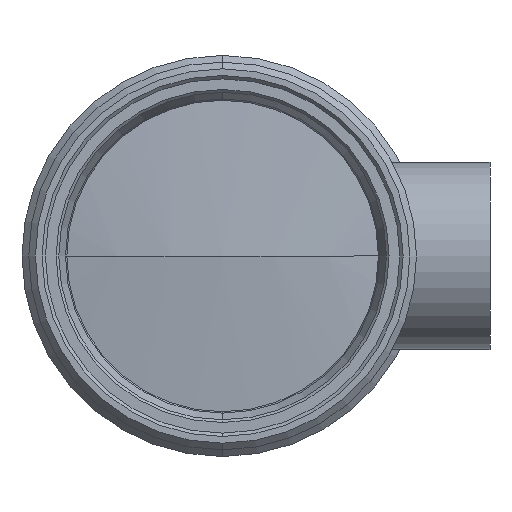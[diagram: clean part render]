
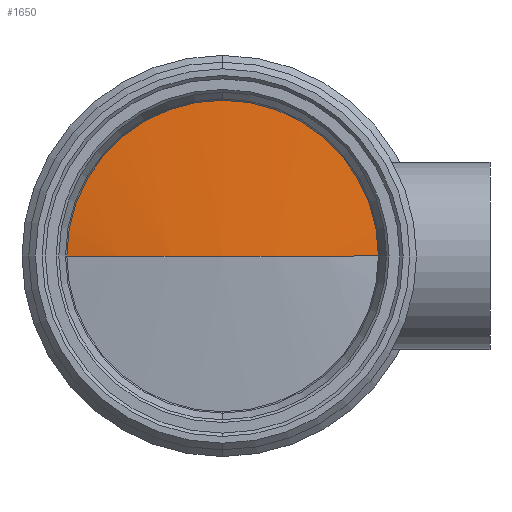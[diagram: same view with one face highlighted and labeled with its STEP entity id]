
A CAD part, left-side view. The second image highlights one B-rep face of the part: STEP entity #1650.
In plain terms, the highlighted spherical face has radius 75.5 mm.
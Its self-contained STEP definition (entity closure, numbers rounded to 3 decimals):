
#40 = ORIENTED_EDGE ( 'NONE', *, *, #327, .F. ) ;
#89 = CARTESIAN_POINT ( 'NONE',  ( 5.177, 0., 11.75 ) ) ;
#102 = EDGE_CURVE ( 'NONE', #3739, #3516, #3099, .T. ) ;
#130 = CARTESIAN_POINT ( 'NONE',  ( 5.177, 0., 0. ) ) ;
#327 = EDGE_CURVE ( 'NONE', #1634, #3631, #2429, .T. ) ;
#329 = CARTESIAN_POINT ( 'NONE',  ( 5.177, 0., 0. ) ) ;
#444 = DIRECTION ( 'NONE',  ( 0., 0., -1. ) ) ;
#448 = ORIENTED_EDGE ( 'NONE', *, *, #102, .T. ) ;
#737 = CARTESIAN_POINT ( 'NONE',  ( 4.257, 0., 0. ) ) ;
#907 = CIRCLE ( 'NONE', #2272, 75.5 ) ;
#929 = CARTESIAN_POINT ( 'NONE',  ( 5.177, 11.75, 0. ) ) ;
#944 = CARTESIAN_POINT ( 'NONE',  ( 79.757, 0., 0. ) ) ;
#1108 = ORIENTED_EDGE ( 'NONE', *, *, #1378, .F. ) ;
#1217 = CARTESIAN_POINT ( 'NONE',  ( 79.757, 0., 0. ) ) ;
#1339 = CIRCLE ( 'NONE', #1976, 11.75 ) ;
#1378 = EDGE_CURVE ( 'NONE', #3631, #3516, #1339, .T. ) ;
#1389 = FACE_OUTER_BOUND ( 'NONE', #1802, .T. ) ;
#1445 = DIRECTION ( 'NONE',  ( 0., -1., 0. ) ) ;
#1532 = DIRECTION ( 'NONE',  ( -1., 0., 0. ) ) ;
#1563 = DIRECTION ( 'NONE',  ( 0., 1., 0. ) ) ;
#1634 = VERTEX_POINT ( 'NONE', #929 ) ;
#1650 = ADVANCED_FACE ( 'NONE', ( #1389 ), #2823, .T. ) ;
#1762 = CARTESIAN_POINT ( 'NONE',  ( 79.757, 0., 0. ) ) ;
#1802 = EDGE_LOOP ( 'NONE', ( #1897, #448, #1108, #40 ) ) ;
#1890 = DIRECTION ( 'NONE',  ( 1., 0., 0. ) ) ;
#1892 = CARTESIAN_POINT ( 'NONE',  ( 5.177, -11.75, 0. ) ) ;
#1897 = ORIENTED_EDGE ( 'NONE', *, *, #2972, .F. ) ;
#1976 = AXIS2_PLACEMENT_3D ( 'NONE', #130, #2601, #444 ) ;
#1990 = DIRECTION ( 'NONE',  ( 0., 0., -1. ) ) ;
#2094 = AXIS2_PLACEMENT_3D ( 'NONE', #944, #2478, #1563 ) ;
#2272 = AXIS2_PLACEMENT_3D ( 'NONE', #1217, #3366, #1532 ) ;
#2429 = CIRCLE ( 'NONE', #2735, 11.75 ) ;
#2478 = DIRECTION ( 'NONE',  ( 0., 0., 1. ) ) ;
#2601 = DIRECTION ( 'NONE',  ( 1., 0., 0. ) ) ;
#2735 = AXIS2_PLACEMENT_3D ( 'NONE', #329, #1890, #1990 ) ;
#2823 = SPHERICAL_SURFACE ( 'NONE', #2094, 75.5 ) ;
#2972 = EDGE_CURVE ( 'NONE', #3739, #1634, #907, .T. ) ;
#3010 = AXIS2_PLACEMENT_3D ( 'NONE', #1762, #3593, #1445 ) ;
#3099 = CIRCLE ( 'NONE', #3010, 75.5 ) ;
#3366 = DIRECTION ( 'NONE',  ( 0., 0., -1. ) ) ;
#3516 = VERTEX_POINT ( 'NONE', #1892 ) ;
#3593 = DIRECTION ( 'NONE',  ( 0., 0., 1. ) ) ;
#3631 = VERTEX_POINT ( 'NONE', #89 ) ;
#3739 = VERTEX_POINT ( 'NONE', #737 ) ;
